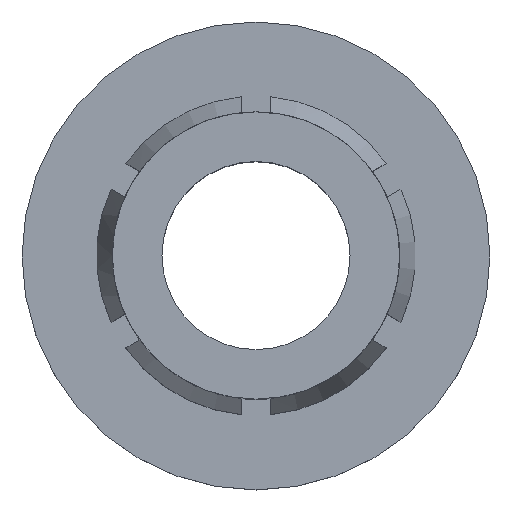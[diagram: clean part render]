
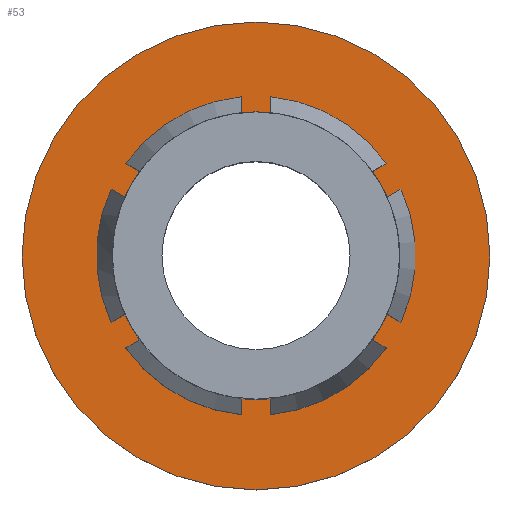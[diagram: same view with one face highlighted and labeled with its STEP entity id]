
A CAD part, top view. The second image highlights one B-rep face of the part: STEP entity #53.
In plain terms, the highlighted planar face has unit normal (0, 0, 1).
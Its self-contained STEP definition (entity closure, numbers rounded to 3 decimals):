
#14 = CARTESIAN_POINT ( 'NONE',  ( 7.134, 0., -18.405 ) ) ;
#53 = ADVANCED_FACE ( 'NONE', ( #762, #279 ), #526, .F. ) ;
#69 = ORIENTED_EDGE ( 'NONE', *, *, #581, .T. ) ;
#75 = DIRECTION ( 'NONE',  ( 0., 0., -1. ) ) ;
#85 = CARTESIAN_POINT ( 'NONE',  ( 3.235, 0., -18.405 ) ) ;
#180 = EDGE_CURVE ( 'NONE', #464, #464, #790, .T. ) ;
#279 = FACE_BOUND ( 'NONE', #1015, .T. ) ;
#308 = AXIS2_PLACEMENT_3D ( 'NONE', #14, #1002, #770 ) ;
#464 = VERTEX_POINT ( 'NONE', #704 ) ;
#526 = PLANE ( 'NONE',  #884 ) ;
#532 = CARTESIAN_POINT ( 'NONE',  ( 13.484, 0., -18.405 ) ) ;
#581 = EDGE_CURVE ( 'NONE', #1402, #1402, #1206, .T. ) ;
#704 = CARTESIAN_POINT ( 'NONE',  ( 0.784, 0., -18.405 ) ) ;
#729 = DIRECTION ( 'NONE',  ( -1., 0., 0. ) ) ;
#740 = EDGE_LOOP ( 'NONE', ( #878 ) ) ;
#762 = FACE_OUTER_BOUND ( 'NONE', #740, .T. ) ;
#770 = DIRECTION ( 'NONE',  ( -1., 0., 0. ) ) ;
#790 = CIRCLE ( 'NONE', #1564, 6.35 ) ;
#855 = CARTESIAN_POINT ( 'NONE',  ( 7.134, 0., -18.405 ) ) ;
#878 = ORIENTED_EDGE ( 'NONE', *, *, #180, .F. ) ;
#884 = AXIS2_PLACEMENT_3D ( 'NONE', #532, #75, #909 ) ;
#909 = DIRECTION ( 'NONE',  ( -1., 0., 0. ) ) ;
#1002 = DIRECTION ( 'NONE',  ( 0., 0., -1. ) ) ;
#1015 = EDGE_LOOP ( 'NONE', ( #69 ) ) ;
#1206 = CIRCLE ( 'NONE', #308, 3.899 ) ;
#1402 = VERTEX_POINT ( 'NONE', #85 ) ;
#1486 = DIRECTION ( 'NONE',  ( 0., 0., -1. ) ) ;
#1564 = AXIS2_PLACEMENT_3D ( 'NONE', #855, #1486, #729 ) ;
